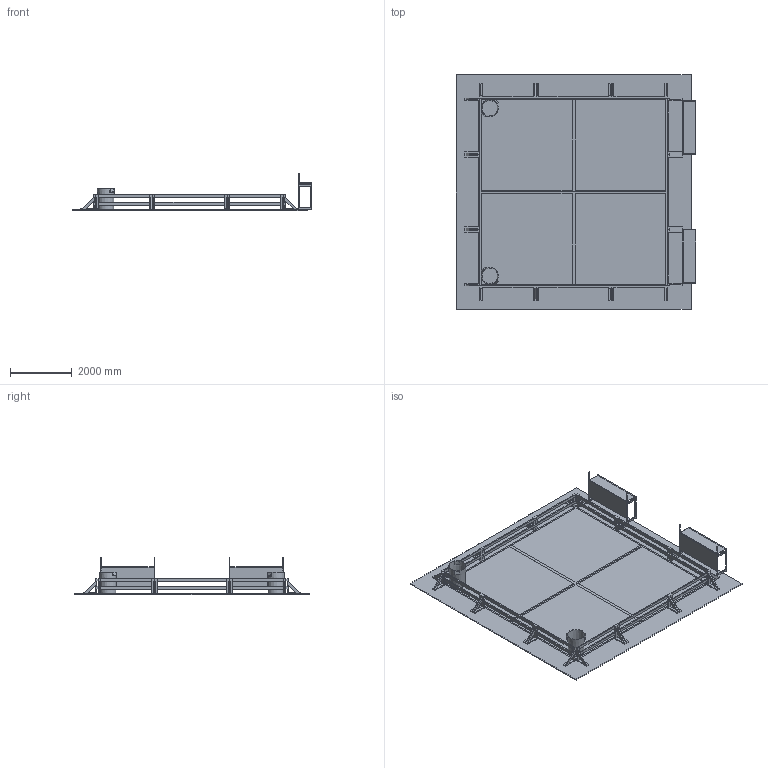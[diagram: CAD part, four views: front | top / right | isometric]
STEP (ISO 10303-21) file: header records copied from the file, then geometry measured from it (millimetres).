
FILE_DESCRIPTION(('FreeCAD Model'),'2;1');
FILE_NAME('Open CASCADE Shape Model','2025-09-23T16:00:44',('Author'),( ''),'Open CASCADE STEP processor 7.8','FreeCAD','Unknown');
FILE_SCHEMA(('AUTOMOTIVE_DESIGN { 1 0 10303 214 1 1 1 1 }'));
Length unit declared in the file: millimetre
Products named in the file (6): Assembly; floor; fence8ft; fence6ft; driverstation; Body
Assembly tree (17 placements, depth 2):
  Assembly
    floor
    fence8ft  x4
    fence6ft  x8
    driverstation  x2
    Body  x2
Bounding box: 7772.4 x 7620 x 1206.5 mm (x, y, z)
Volume: 1848612575.9 mm3; surface area: 151326323.8 mm2
Topology: 17 solids, 17 shells, 502 faces, 1488 edges, 960 vertices
Faces by surface type: plane 496, cone 6
Entity records: 5075 total; most frequent: CARTESIAN_POINT 861, ORIENTED_EDGE 846, DIRECTION 768, EDGE_CURVE 423, LINE 406, VECTOR 406, VERTEX_POINT 274, AXIS2_PLACEMENT_3D 181
